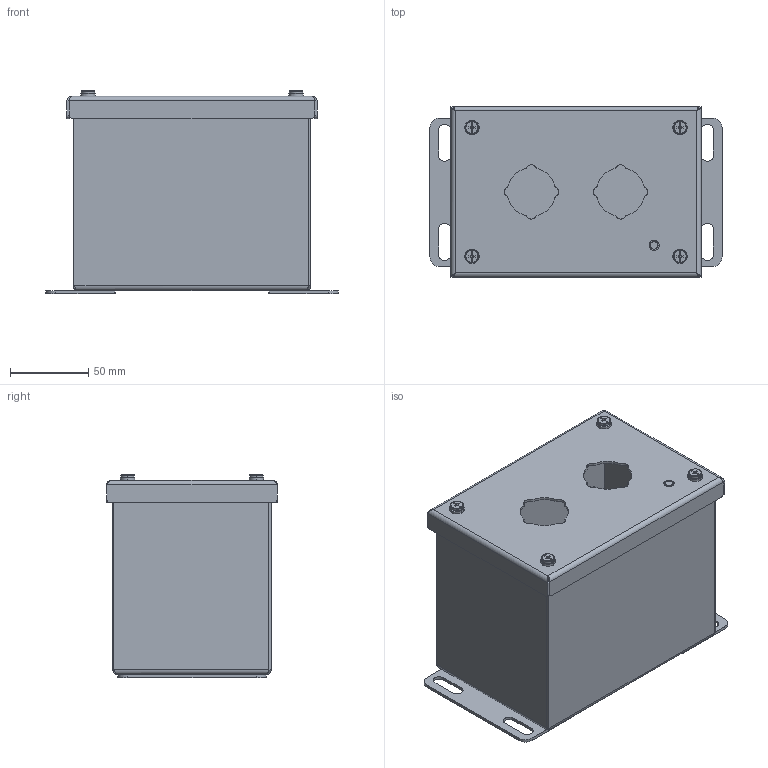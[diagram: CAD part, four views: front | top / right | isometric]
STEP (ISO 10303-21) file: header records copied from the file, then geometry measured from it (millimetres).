
FILE_DESCRIPTION((''),'2;1');
FILE_NAME('MODEL-394_ASM','2021-06-07T09:34:52',('mikek'),('SAGINAW CONTROL & ENGINEERING'),'CREO PARAMETRIC BY PTC INC, 2017260','CREO PARAMETRIC BY PTC INC, 2017260','');
FILE_SCHEMA(('AUTOMOTIVE_DESIGN { 1 0 10303 214 1 1 1 1 }'));
Length unit declared in the file: inch
Products named in the file (10): MODEL-394-BDY; MODEL-394-DR; 100097; 102197; 101966; 100012; 102599; 102534; MODEL-394-GSKT; MODEL-394_ASM
Assembly tree (16 placements, depth 2):
  MODEL-394_ASM
    MODEL-394-BDY
    MODEL-394-DR
    100097
    102197  x2
    101966
    100012
    102599  x4
    102534  x4
    MODEL-394-GSKT
Bounding box: 187.32 x 109.54 x 130.14 mm (x, y, z)
Volume: 177941.4 mm3; surface area: 234155.7 mm2
Topology: 19 solids, 19 shells, 743 faces, 1846 edges, 1084 vertices
Faces by surface type: plane 267, cylinder 252, bspline 108, torus 88, cone 28
Entity records: 21944 total; most frequent: CARTESIAN_POINT 5895, DIRECTION 2156, ORIENTED_EDGE 2080, EDGE_CURVE 1040, PRESENTATION_STYLE_ASSIGNMENT 952, STYLED_ITEM 952, CURVE_STYLE 876, AXIS2_PLACEMENT_3D 787
